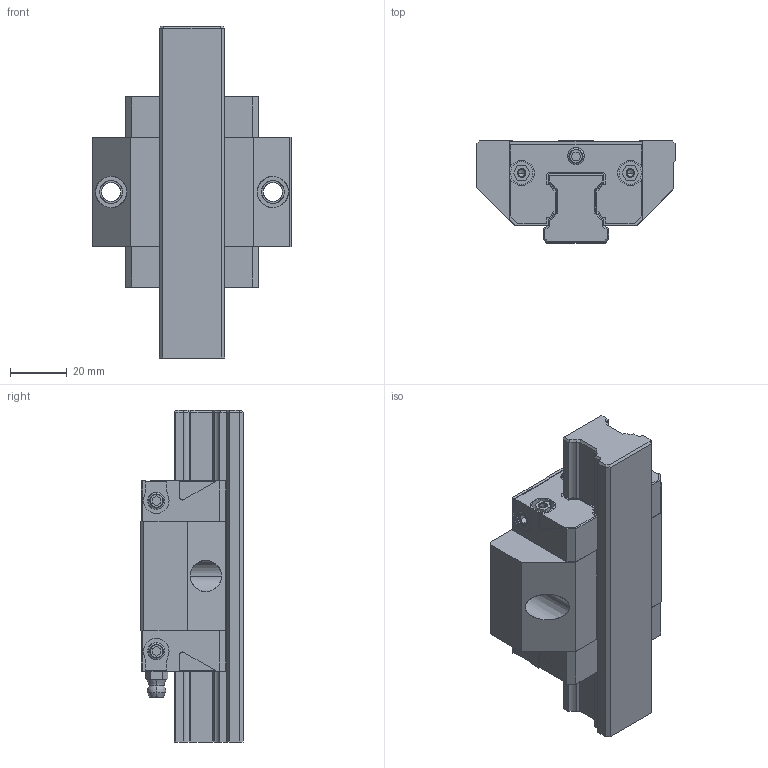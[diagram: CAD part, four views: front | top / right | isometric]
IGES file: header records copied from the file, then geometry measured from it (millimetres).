
Start section: 3D InterOp IGES (v. 2019 1.0.2), Spatial Corp. Copyright (c) 1999-2017.
Global section: file name: R1665_size25.igs; native system: Spatial Corp.; preprocessor: 3D InterOp GENERIC/IGES 3.0; author: Noname; organization: Noname; date: 20220629.125024; units: millimetre
Bounding box: 70 x 36 x 117 mm (x, y, z)
Surface area: 41356.6 mm2 (no closed solid volume)
Topology: 0 solids, 0 shells, 513 faces, 2704 edges, 2682 vertices
Faces by surface type: extrusion 300, revolution 213
